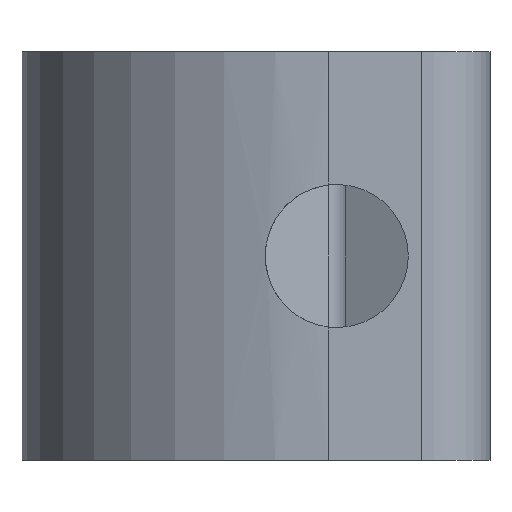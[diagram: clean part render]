
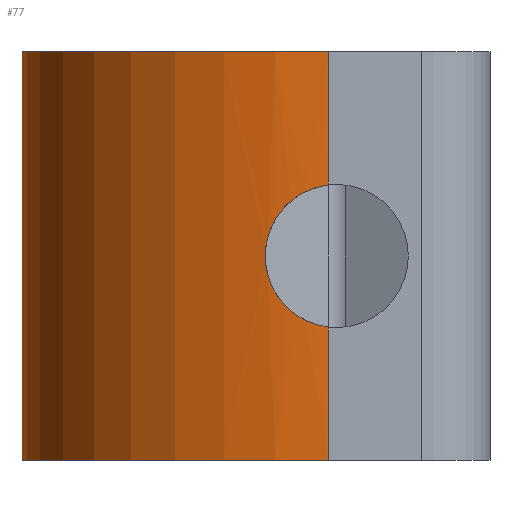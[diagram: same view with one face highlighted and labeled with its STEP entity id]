
A CAD part, left-side view. The second image highlights one B-rep face of the part: STEP entity #77.
In plain terms, the highlighted cylindrical face has radius 8.997 mm (diameter 17.995 mm), a partial arc.
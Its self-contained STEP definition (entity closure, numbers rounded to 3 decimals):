
#77 = ADVANCED_FACE( '', ( #107 ), #108, .T. );
#107 = FACE_OUTER_BOUND( '', #160, .T. );
#108 = CYLINDRICAL_SURFACE( '', #161, 8.997 );
#160 = EDGE_LOOP( '', ( #222, #223, #224, #225, #226, #227 ) );
#161 = AXIS2_PLACEMENT_3D( '', #228, #229, #230 );
#222 = ORIENTED_EDGE( '', *, *, #444, .T. );
#223 = ORIENTED_EDGE( '', *, *, #445, .T. );
#224 = ORIENTED_EDGE( '', *, *, #446, .T. );
#225 = ORIENTED_EDGE( '', *, *, #437, .T. );
#226 = ORIENTED_EDGE( '', *, *, #447, .T. );
#227 = ORIENTED_EDGE( '', *, *, #448, .T. );
#228 = CARTESIAN_POINT( '', ( -0.794, -1.051, 0. ) );
#229 = DIRECTION( '', ( 0., 0., -1. ) );
#230 = DIRECTION( '', ( 1., 0., 0. ) );
#437 = EDGE_CURVE( '', #512, #511, #514, .T. );
#444 = EDGE_CURVE( '', #527, #528, #529, .T. );
#445 = EDGE_CURVE( '', #528, #530, #531, .T. );
#446 = EDGE_CURVE( '', #530, #512, #532, .T. );
#447 = EDGE_CURVE( '', #511, #533, #534, .T. );
#448 = EDGE_CURVE( '', #533, #527, #535, .F. );
#511 = VERTEX_POINT( '', #636 );
#512 = VERTEX_POINT( '', #637 );
#514 = B_SPLINE_CURVE_WITH_KNOTS( '', 3, ( #639, #640, #641, #642, #643, #644, #645, #646, #647, #648, #649, #650, #651, #652, #653, #654, #655, #656, #657, #658, #659, #660, #661, #662, #663, #664 ), .UNSPECIFIED., .F., .F., ( 4, 2, 2, 2, 2, 2, 2, 2, 2, 2, 2, 2, 4 ), ( 0., 0.001, 0.001, 0.002, 0.002, 0.002, 0.003, 0.003, 0.003, 0.004, 0.005, 0.005, 0.006 ), .UNSPECIFIED. );
#527 = VERTEX_POINT( '', #712 );
#528 = VERTEX_POINT( '', #713 );
#529 = LINE( '', #714, #715 );
#530 = VERTEX_POINT( '', #716 );
#531 = CIRCLE( '', #717, 8.997 );
#532 = LINE( '', #718, #719 );
#533 = VERTEX_POINT( '', #720 );
#534 = LINE( '', #721, #722 );
#535 = CIRCLE( '', #723, 8.997 );
#636 = CARTESIAN_POINT( '', ( -9.791, -1.051, 8.085 ) );
#637 = CARTESIAN_POINT( '', ( -9.791, -1.051, 3.915 ) );
#639 = CARTESIAN_POINT( '', ( -9.791, -1.051, 3.915 ) );
#640 = CARTESIAN_POINT( '', ( -9.791, -0.796, 3.945 ) );
#641 = CARTESIAN_POINT( '', ( -9.78, -0.552, 4.021 ) );
#642 = CARTESIAN_POINT( '', ( -9.753, -0.213, 4.199 ) );
#643 = CARTESIAN_POINT( '', ( -9.742, -0.107, 4.267 ) );
#644 = CARTESIAN_POINT( '', ( -9.719, 0.093, 4.423 ) );
#645 = CARTESIAN_POINT( '', ( -9.706, 0.186, 4.511 ) );
#646 = CARTESIAN_POINT( '', ( -9.681, 0.355, 4.701 ) );
#647 = CARTESIAN_POINT( '', ( -9.668, 0.43, 4.802 ) );
#648 = CARTESIAN_POINT( '', ( -9.646, 0.561, 5.018 ) );
#649 = CARTESIAN_POINT( '', ( -9.635, 0.618, 5.134 ) );
#650 = CARTESIAN_POINT( '', ( -9.617, 0.708, 5.371 ) );
#651 = CARTESIAN_POINT( '', ( -9.61, 0.742, 5.493 ) );
#652 = CARTESIAN_POINT( '', ( -9.601, 0.788, 5.743 ) );
#653 = CARTESIAN_POINT( '', ( -9.598, 0.8, 5.872 ) );
#654 = CARTESIAN_POINT( '', ( -9.598, 0.8, 6.126 ) );
#655 = CARTESIAN_POINT( '', ( -9.601, 0.789, 6.252 ) );
#656 = CARTESIAN_POINT( '', ( -9.61, 0.743, 6.503 ) );
#657 = CARTESIAN_POINT( '', ( -9.617, 0.708, 6.627 ) );
#658 = CARTESIAN_POINT( '', ( -9.644, 0.573, 6.982 ) );
#659 = CARTESIAN_POINT( '', ( -9.668, 0.439, 7.204 ) );
#660 = CARTESIAN_POINT( '', ( -9.718, 0.104, 7.582 ) );
#661 = CARTESIAN_POINT( '', ( -9.743, -0.1, 7.742 ) );
#662 = CARTESIAN_POINT( '', ( -9.78, -0.548, 7.977 ) );
#663 = CARTESIAN_POINT( '', ( -9.791, -0.796, 8.055 ) );
#664 = CARTESIAN_POINT( '', ( -9.791, -1.051, 8.085 ) );
#712 = CARTESIAN_POINT( '', ( -0.794, 7.946, 12. ) );
#713 = CARTESIAN_POINT( '', ( -0.794, 7.946, 0. ) );
#714 = CARTESIAN_POINT( '', ( -0.794, 7.946, 0. ) );
#715 = VECTOR( '', #872, 1000. );
#716 = CARTESIAN_POINT( '', ( -9.791, -1.051, 0. ) );
#717 = AXIS2_PLACEMENT_3D( '', #873, #874, #875 );
#718 = CARTESIAN_POINT( '', ( -9.791, -1.051, 0. ) );
#719 = VECTOR( '', #876, 1000. );
#720 = CARTESIAN_POINT( '', ( -9.791, -1.051, 12. ) );
#721 = CARTESIAN_POINT( '', ( -9.791, -1.051, 0. ) );
#722 = VECTOR( '', #877, 1000. );
#723 = AXIS2_PLACEMENT_3D( '', #878, #879, #880 );
#872 = DIRECTION( '', ( 0., 0., -1. ) );
#873 = CARTESIAN_POINT( '', ( -0.794, -1.051, 0. ) );
#874 = DIRECTION( '', ( 0., 0., 1. ) );
#875 = DIRECTION( '', ( 1., 0., 0. ) );
#876 = DIRECTION( '', ( 0., 0., 1. ) );
#877 = DIRECTION( '', ( 0., 0., 1. ) );
#878 = CARTESIAN_POINT( '', ( -0.794, -1.051, 12. ) );
#879 = DIRECTION( '', ( 0., 0., 1. ) );
#880 = DIRECTION( '', ( 1., 0., 0. ) );
